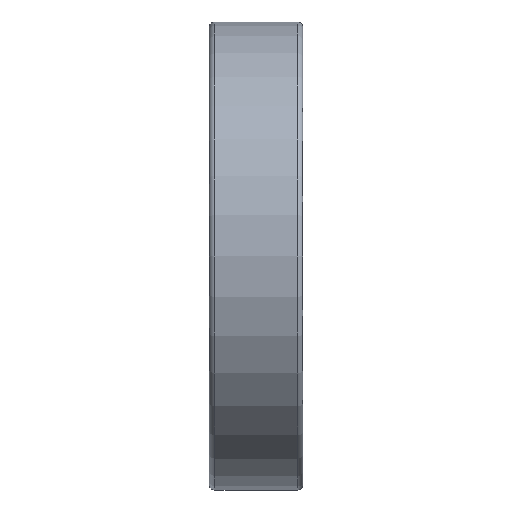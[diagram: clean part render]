
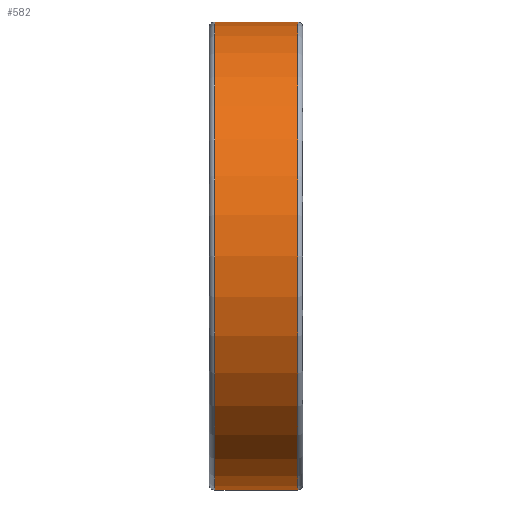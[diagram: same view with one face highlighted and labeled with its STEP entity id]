
A CAD part, front view. The second image highlights one B-rep face of the part: STEP entity #582.
In plain terms, the highlighted cylindrical face has radius 45 mm (diameter 90 mm), a full revolution.
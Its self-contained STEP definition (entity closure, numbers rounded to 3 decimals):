
#173=CYLINDRICAL_SURFACE('',#918,45.);
#281=EDGE_LOOP('',(#401));
#282=EDGE_LOOP('',(#402));
#401=ORIENTED_EDGE('',*,*,#469,.F.);
#402=ORIENTED_EDGE('',*,*,#467,.T.);
#467=EDGE_CURVE('',#841,#841,#487,.T.);
#469=EDGE_CURVE('',#843,#843,#489,.T.);
#487=CIRCLE('',#914,45.);
#489=CIRCLE('',#917,45.);
#582=ADVANCED_FACE('',(#735,#736),#173,.T.);
#735=FACE_BOUND('',#281,.T.);
#736=FACE_BOUND('',#282,.T.);
#841=VERTEX_POINT('',#1938);
#843=VERTEX_POINT('',#1943);
#914=AXIS2_PLACEMENT_3D('',#1937,#1048,#1049);
#917=AXIS2_PLACEMENT_3D('',#1942,#1054,#1055);
#918=AXIS2_PLACEMENT_3D('',#1944,#1056,#1057);
#1048=DIRECTION('',(1.,0.,0.));
#1049=DIRECTION('',(0.,0.,-1.));
#1054=DIRECTION('',(1.,0.,0.));
#1055=DIRECTION('',(0.,0.,-1.));
#1056=DIRECTION('',(1.,0.,0.));
#1057=DIRECTION('',(0.,0.,-1.));
#1937=CARTESIAN_POINT('',(-7.9,0.,0.));
#1938=CARTESIAN_POINT('',(-7.9,0.,-45.));
#1942=CARTESIAN_POINT('',(8.,0.,0.));
#1943=CARTESIAN_POINT('',(8.,0.,-45.));
#1944=CARTESIAN_POINT('',(-7.9,0.,0.));
